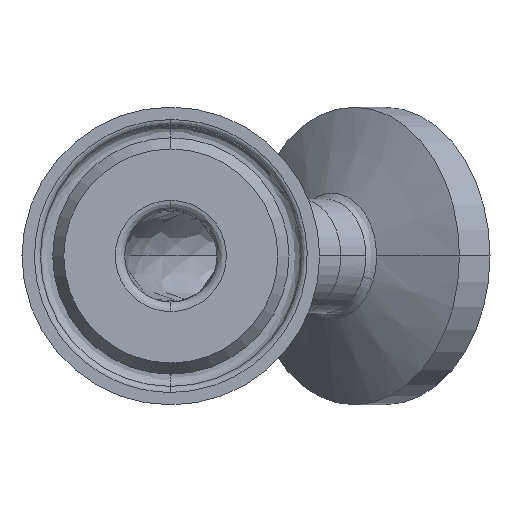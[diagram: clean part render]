
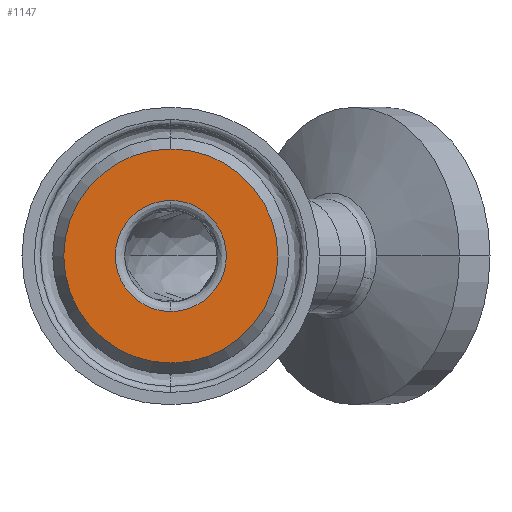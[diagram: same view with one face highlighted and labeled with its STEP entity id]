
A CAD part, front view. The second image highlights one B-rep face of the part: STEP entity #1147.
In plain terms, the highlighted planar face has unit normal (0, -1, 0).
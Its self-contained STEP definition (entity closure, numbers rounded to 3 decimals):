
#122 = CARTESIAN_POINT ( 'NONE',  ( -9.322, -9.213, -4.661 ) ) ;
#124 = AXIS2_PLACEMENT_3D ( 'NONE', #947, #963, #1587 ) ;
#141 = EDGE_LOOP ( 'NONE', ( #434, #1367 ) ) ;
#211 = VERTEX_POINT ( 'NONE', #423 ) ;
#354 = AXIS2_PLACEMENT_3D ( 'NONE', #1926, #1943, #800 ) ;
#369 = VERTEX_POINT ( 'NONE', #1556 ) ;
#415 = EDGE_CURVE ( 'NONE', #211, #1855, #1999, .T. ) ;
#423 = CARTESIAN_POINT ( 'NONE',  ( 0., -9.213, 8.987 ) ) ;
#434 = ORIENTED_EDGE ( 'NONE', *, *, #415, .F. ) ;
#455 =( BOUNDED_CURVE ( )  B_SPLINE_CURVE ( 3, ( #518, #543, #1348, #1179 ),
 .UNSPECIFIED., .F., .F. ) 
 B_SPLINE_CURVE_WITH_KNOTS ( ( 4, 4 ),
 ( 0., 1. ),
 .UNSPECIFIED. ) 
 CURVE ( )  GEOMETRIC_REPRESENTATION_ITEM ( )  RATIONAL_B_SPLINE_CURVE ( ( 1., 0.333, 0.333, 1. ) ) 
 REPRESENTATION_ITEM ( '' )  );
#513 = CARTESIAN_POINT ( 'NONE',  ( 0., -9.213, 4.661 ) ) ;
#518 = CARTESIAN_POINT ( 'NONE',  ( 0., -9.213, -4.661 ) ) ;
#543 = CARTESIAN_POINT ( 'NONE',  ( 9.322, -9.213, -4.661 ) ) ;
#586 = FACE_OUTER_BOUND ( 'NONE', #141, .T. ) ;
#599 = CARTESIAN_POINT ( 'NONE',  ( 0., -9.213, 4.661 ) ) ;
#650 = VERTEX_POINT ( 'NONE', #513 ) ;
#711 = CARTESIAN_POINT ( 'NONE',  ( -9.322, -9.213, 4.661 ) ) ;
#781 = DIRECTION ( 'NONE',  ( 0., 0., 1. ) ) ;
#787 = CARTESIAN_POINT ( 'NONE',  ( 0., -9.213, 0. ) ) ;
#800 = DIRECTION ( 'NONE',  ( 0., 0., 1. ) ) ;
#804 = CARTESIAN_POINT ( 'NONE',  ( 0., -9.213, -8.987 ) ) ;
#862 =( BOUNDED_CURVE ( )  B_SPLINE_CURVE ( 3, ( #599, #711, #122, #1769 ),
 .UNSPECIFIED., .F., .F. ) 
 B_SPLINE_CURVE_WITH_KNOTS ( ( 4, 4 ),
 ( 0., 1. ),
 .UNSPECIFIED. ) 
 CURVE ( )  GEOMETRIC_REPRESENTATION_ITEM ( )  RATIONAL_B_SPLINE_CURVE ( ( 1., 0.333, 0.333, 1. ) ) 
 REPRESENTATION_ITEM ( '' )  );
#947 = CARTESIAN_POINT ( 'NONE',  ( 0., -9.213, 0. ) ) ;
#963 = DIRECTION ( 'NONE',  ( 0., 1., 0. ) ) ;
#1107 = EDGE_CURVE ( 'NONE', #650, #369, #862, .T. ) ;
#1147 = ADVANCED_FACE ( 'NONE', ( #586, #1182 ), #1448, .F. ) ;
#1179 = CARTESIAN_POINT ( 'NONE',  ( 0., -9.213, 4.661 ) ) ;
#1182 = FACE_BOUND ( 'NONE', #1824, .T. ) ;
#1335 = EDGE_CURVE ( 'NONE', #369, #650, #455, .T. ) ;
#1348 = CARTESIAN_POINT ( 'NONE',  ( 9.322, -9.213, 4.661 ) ) ;
#1349 = EDGE_CURVE ( 'NONE', #1855, #211, #1730, .T. ) ;
#1367 = ORIENTED_EDGE ( 'NONE', *, *, #1349, .F. ) ;
#1448 = PLANE ( 'NONE',  #354 ) ;
#1556 = CARTESIAN_POINT ( 'NONE',  ( 0., -9.213, -4.661 ) ) ;
#1587 = DIRECTION ( 'NONE',  ( 0., 0., 1. ) ) ;
#1730 = CIRCLE ( 'NONE', #124, 8.987 ) ;
#1769 = CARTESIAN_POINT ( 'NONE',  ( 0., -9.213, -4.661 ) ) ;
#1812 = AXIS2_PLACEMENT_3D ( 'NONE', #787, #1924, #781 ) ;
#1819 = ORIENTED_EDGE ( 'NONE', *, *, #1107, .F. ) ;
#1824 = EDGE_LOOP ( 'NONE', ( #1983, #1819 ) ) ;
#1855 = VERTEX_POINT ( 'NONE', #804 ) ;
#1924 = DIRECTION ( 'NONE',  ( 0., 1., 0. ) ) ;
#1926 = CARTESIAN_POINT ( 'NONE',  ( -4.661, -9.213, 0. ) ) ;
#1943 = DIRECTION ( 'NONE',  ( 0., 1., 0. ) ) ;
#1983 = ORIENTED_EDGE ( 'NONE', *, *, #1335, .F. ) ;
#1999 = CIRCLE ( 'NONE', #1812, 8.987 ) ;
